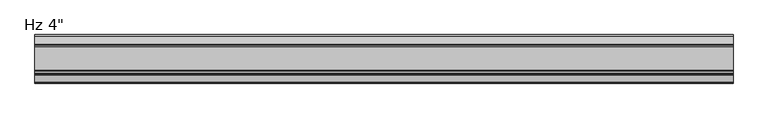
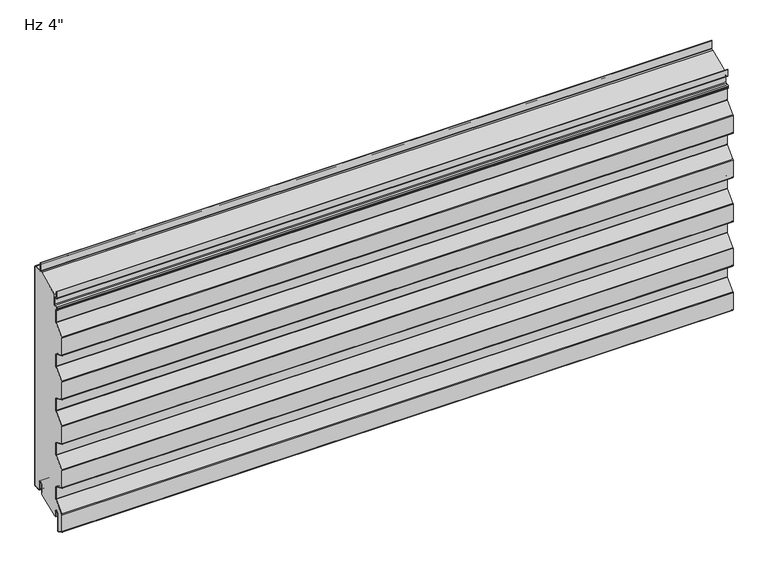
"""IFC4 building model written with IfcOpenShell, lengths in millimetres: plate geometry."""

from ifc_helpers import new_model, si_unit, point, frame, frame_2d, origin, place, context, project, spatial, polyline, circle_curve, trimmed, segment, composite_curve, outline, extrude, source, transform, mapped, element, save


def plate_668f9a29(model_context):
    return source(origin(), model_context, "Body", "SweptSolid", [
        extrude(outline(composite_curve([segment(polyline([(-26.4011912, 19.05), (-26.4011912, -3.1976612), (-74.633822, -23.01875), (-76.7886912, -23.01875), (-76.7886912, -11.90625)]), True, "CONTINUOUS"), segment(trimmed(circle_curve(frame_2d((-81.7574412, -11.90625)), 4.96875), [point((-76.7886912, -11.90625))], [point((-86.7261912, -11.90625))], True, "CARTESIAN"), True, "CONTINUOUS"), segment(polyline([(-86.7261912, -11.90625), (-86.7261912, -48.8194049)]), True, "CONTINUOUS"), segment(trimmed(circle_curve(frame_2d((-88.1074412, -48.8194049)), 1.38125), [point((-86.7261912, -48.8194049))], [point((-88.6666208, -50.0824052))], False, "CARTESIAN"), True, "CONTINUOUS"), segment(polyline([(-88.6666208, -50.0824052), (-99.7779296, -45.1629946)]), True, "CONTINUOUS"), segment(trimmed(circle_curve(frame_2d((-99.21875, -43.8999943)), 1.38125), [point((-99.7779296, -45.1629946))], [point((-100.6, -43.8999943))], False, "CARTESIAN"), True, "CONTINUOUS"), segment(polyline([(-100.6, -43.8999943), (-100.6, -5.0536946)]), True, "CONTINUOUS"), segment(trimmed(circle_curve(frame_2d((-98.5012, -5.0536946)), 2.0988), [point((-100.6, -5.0536946))], [point((-100.0092077, -3.5939431))], False, "CARTESIAN"), True, "CONTINUOUS"), segment(polyline([(-100.0092077, -3.5939431), (-79.8145567, 17.2682996)]), True, "CONTINUOUS"), segment(trimmed(circle_curve(frame_2d((-81.6737, 19.0679503)), 2.5875), [point((-79.8145567, 17.2682996))], [point((-79.0862, 19.0679503))], True, "CARTESIAN"), True, "CONTINUOUS"), segment(polyline([(-79.0862, 19.0679503), (-79.0862, 45.5917981)]), True, "CONTINUOUS"), segment(trimmed(circle_curve(frame_2d((-81.6737, 45.5917981)), 2.5875), [point((-79.0862, 45.5917981))], [point((-80.6261871, 47.9577806))], True, "CARTESIAN"), True, "CONTINUOUS"), segment(polyline([(-80.6261871, 47.9577806), (-99.7779296, 56.4370054)]), True, "CONTINUOUS"), segment(trimmed(circle_curve(frame_2d((-99.21875, 57.7000057)), 1.38125), [point((-99.7779296, 56.4370054))], [point((-100.6, 57.7000057))], False, "CARTESIAN"), True, "CONTINUOUS"), segment(polyline([(-100.6, 57.7000057), (-100.6, 96.8367131)]), True, "CONTINUOUS"), segment(trimmed(circle_curve(frame_2d((-99.21875, 96.8367131)), 1.38125), [point((-100.6, 96.8367131))], [point((-100.2111912, 97.7973962))], False, "CARTESIAN"), True, "CONTINUOUS"), segment(polyline([(-100.2111912, 97.7973962), (-79.8145567, 118.8682996)]), True, "CONTINUOUS"), segment(trimmed(circle_curve(frame_2d((-81.6737, 120.6679503)), 2.5875), [point((-79.8145567, 118.8682996))], [point((-79.0862, 120.6679503))], True, "CARTESIAN"), True, "CONTINUOUS"), segment(polyline([(-79.0862, 120.6679503), (-79.0862, 147.1917981)]), True, "CONTINUOUS"), segment(trimmed(circle_curve(frame_2d((-81.6737, 147.1917981)), 2.5875), [point((-79.0862, 147.1917981))], [point((-80.6261871, 149.5577806))], True, "CARTESIAN"), True, "CONTINUOUS"), segment(polyline([(-80.6261871, 149.5577806), (-99.7779296, 158.0370054)]), True, "CONTINUOUS"), segment(trimmed(circle_curve(frame_2d((-99.21875, 159.3000057)), 1.38125), [point((-99.7779296, 158.0370054))], [point((-100.6, 159.3000057))], False, "CARTESIAN"), True, "CONTINUOUS"), segment(polyline([(-100.6, 159.3000057), (-100.6, 198.4367131)]), True, "CONTINUOUS"), segment(trimmed(circle_curve(frame_2d((-99.21875, 198.4367131)), 1.38125), [point((-100.6, 198.4367131))], [point((-100.2111912, 199.3973962))], False, "CARTESIAN"), True, "CONTINUOUS"), segment(polyline([(-100.2111912, 199.3973962), (-79.8145567, 220.4682996)]), True, "CONTINUOUS"), segment(trimmed(circle_curve(frame_2d((-81.6737, 222.2679503)), 2.5875), [point((-79.8145567, 220.4682996))], [point((-79.0862, 222.2679503))], True, "CARTESIAN"), True, "CONTINUOUS"), segment(polyline([(-79.0862, 222.2679503), (-79.0862, 248.7917981)]), True, "CONTINUOUS"), segment(trimmed(circle_curve(frame_2d((-81.6737, 248.7917981)), 2.5875), [point((-79.0862, 248.7917981))], [point((-80.6261871, 251.1577806))], True, "CARTESIAN"), True, "CONTINUOUS"), segment(polyline([(-80.6261871, 251.1577806), (-99.7779296, 259.6370054)]), True, "CONTINUOUS"), segment(trimmed(circle_curve(frame_2d((-99.21875, 260.9000057)), 1.38125), [point((-99.7779296, 259.6370054))], [point((-100.6, 260.9000057))], False, "CARTESIAN"), True, "CONTINUOUS"), segment(polyline([(-100.6, 260.9000057), (-100.6, 300.0367131)]), True, "CONTINUOUS"), segment(trimmed(circle_curve(frame_2d((-99.21875, 300.0367131)), 1.38125), [point((-100.6, 300.0367131))], [point((-100.2111912, 300.9973962))], False, "CARTESIAN"), True, "CONTINUOUS"), segment(polyline([(-100.2111912, 300.9973962), (-79.8145567, 322.0682996)]), True, "CONTINUOUS"), segment(trimmed(circle_curve(frame_2d((-81.6737, 323.8679503)), 2.5875), [point((-79.8145567, 322.0682996))], [point((-79.0862, 323.8679503))], True, "CARTESIAN"), True, "CONTINUOUS"), segment(polyline([(-79.0862, 323.8679503), (-79.0862, 350.3917981)]), True, "CONTINUOUS"), segment(trimmed(circle_curve(frame_2d((-81.6737, 350.3917981)), 2.5875), [point((-79.0862, 350.3917981))], [point((-80.6261871, 352.7577806))], True, "CARTESIAN"), True, "CONTINUOUS"), segment(polyline([(-80.6261871, 352.7577806), (-99.7779296, 361.2370054)]), True, "CONTINUOUS"), segment(trimmed(circle_curve(frame_2d((-99.21875, 362.5000057)), 1.38125), [point((-99.7779296, 361.2370054))], [point((-100.6, 362.5000057))], False, "CARTESIAN"), True, "CONTINUOUS"), segment(polyline([(-100.6, 362.5000057), (-100.6, 401.6367131)]), True, "CONTINUOUS"), segment(trimmed(circle_curve(frame_2d((-99.21875, 401.6367131)), 1.38125), [point((-100.6, 401.6367131))], [point((-100.2111912, 402.5973962))], False, "CARTESIAN"), True, "CONTINUOUS"), segment(polyline([(-100.2111912, 402.5973962), (-79.8145567, 423.6682996)]), True, "CONTINUOUS"), segment(trimmed(circle_curve(frame_2d((-81.6737, 425.4679503)), 2.5875), [point((-79.8145567, 423.6682996))], [point((-79.0862, 425.4679503))], True, "CARTESIAN"), True, "CONTINUOUS"), segment(polyline([(-79.0862, 425.4679503), (-79.0862, 451.9917981)]), True, "CONTINUOUS"), segment(trimmed(circle_curve(frame_2d((-81.6737, 451.9917981)), 2.5875), [point((-79.0862, 451.9917981))], [point((-80.6261871, 454.3577806))], True, "CARTESIAN"), True, "CONTINUOUS"), segment(polyline([(-80.6261871, 454.3577806), (-82.3166208, 455.1062016)]), True, "CONTINUOUS"), segment(trimmed(circle_curve(frame_2d((-81.7574412, 456.3692019)), 1.38125), [point((-82.3166208, 455.1062016))], [point((-83.1386912, 456.3692019))], False, "CARTESIAN"), True, "CONTINUOUS"), segment(polyline([(-83.1386912, 456.3692019), (-83.1386912, 458.6967085)]), True, "CONTINUOUS"), segment(trimmed(circle_curve(frame_2d((-81.7574412, 458.6967085)), 1.38125), [point((-83.1386912, 458.6967085))], [point((-81.8297302, 460.0760655))], False, "CARTESIAN"), True, "CONTINUOUS"), segment(polyline([(-81.8297302, 460.0760655), (-76.0657719, 460.3781418)]), True, "CONTINUOUS"), segment(trimmed(circle_curve(frame_2d((-76.2011912, 462.9620957)), 2.5875), [point((-76.0657719, 460.3781418))], [point((-73.6136912, 462.9620957))], True, "CARTESIAN"), True, "CONTINUOUS"), segment(polyline([(-73.6136912, 462.9620957), (-73.6136912, 485.3892934), (-24.8719682, 506.20625), (-2.3824412, 506.20625)]), True, "CONTINUOUS"), segment(trimmed(circle_curve(frame_2d((-2.3824412, 504.825)), 1.38125), [point((-2.3824412, 506.20625))], [point((-1.0011912, 504.825))], False, "CARTESIAN"), True, "CONTINUOUS"), segment(polyline([(-1.0011912, 504.825), (-1.0011912, 3.175)]), True, "CONTINUOUS"), segment(trimmed(circle_curve(frame_2d((-2.3824412, 3.175)), 1.38125), [point((-1.0011912, 3.175))], [point((-2.3824412, 1.79375))], False, "CARTESIAN"), True, "CONTINUOUS"), segment(polyline([(-2.3824412, 1.79375), (-15.0824412, 1.79375)]), True, "CONTINUOUS"), segment(trimmed(circle_curve(frame_2d((-15.0824412, 3.175)), 1.38125), [point((-15.0824412, 1.79375))], [point((-16.4636912, 3.175))], False, "CARTESIAN"), True, "CONTINUOUS"), segment(polyline([(-16.4636912, 3.175), (-16.4636912, 19.05)]), True, "CONTINUOUS"), segment(trimmed(circle_curve(frame_2d((-21.4324412, 19.05)), 4.96875), [point((-16.4636912, 19.05))], [point((-26.4011912, 19.05))], True, "CARTESIAN"), True, "CONTINUOUS")], self_intersect=False)), frame((-730.0, 0.0, 0.0), z_axis=(1.0, 0.0, 0.0), x_axis=(0.0, 1.0, 0.0)), (0.0, 0.0, 1.0), 1460.0),
        extrude(outline(composite_curve([segment(polyline([(-25.4, 0.79375), (-26.4, 0.79375), (-26.4, 19.05)]), True, "CONTINUOUS"), segment(trimmed(circle_curve(frame_2d((-21.43125, 19.05)), 4.96875), [point((-26.4, 19.05))], [point((-16.4625, 19.05))], False, "CARTESIAN"), True, "CONTINUOUS"), segment(polyline([(-16.4625, 19.05), (-16.4625, 3.175)]), True, "CONTINUOUS"), segment(trimmed(circle_curve(frame_2d((-15.08125, 3.175)), 1.38125), [point((-16.4625, 3.175))], [point((-15.08125, 1.79375))], True, "CARTESIAN"), True, "CONTINUOUS"), segment(polyline([(-15.08125, 1.79375), (-2.38125, 1.79375)]), True, "CONTINUOUS"), segment(trimmed(circle_curve(frame_2d((-2.38125, 3.175)), 1.38125), [point((-2.38125, 1.79375))], [point((-1.0, 3.175))], True, "CARTESIAN"), True, "CONTINUOUS"), segment(polyline([(-1.0, 3.175), (-1.0, 504.825)]), True, "CONTINUOUS"), segment(trimmed(circle_curve(frame_2d((-2.38125, 504.825)), 1.38125), [point((-1.0, 504.825))], [point((-2.38125, 506.20625))], True, "CARTESIAN"), True, "CONTINUOUS"), segment(polyline([(-2.38125, 506.20625), (-19.446875, 506.20625)]), True, "CONTINUOUS"), segment(trimmed(circle_curve(frame_2d((-19.446875, 508.79375)), 2.5875), [point((-19.446875, 506.20625))], [point((-22.034375, 508.79375))], False, "CARTESIAN"), True, "CONTINUOUS"), segment(polyline([(-22.034375, 508.79375), (-22.034375, 526.25625), (-21.034375, 526.25625), (-21.034375, 508.79375)]), True, "CONTINUOUS"), segment(trimmed(circle_curve(frame_2d((-19.446875, 508.79375)), 1.5875), [point((-21.034375, 508.79375))], [point((-19.446875, 507.20625))], True, "CARTESIAN"), True, "CONTINUOUS"), segment(polyline([(-19.446875, 507.20625), (-2.38125, 507.20625)]), True, "CONTINUOUS"), segment(trimmed(circle_curve(frame_2d((-2.38125, 504.825)), 2.38125), [point((-2.38125, 507.20625))], [point((0.0, 504.825))], False, "CARTESIAN"), True, "CONTINUOUS"), segment(polyline([(0.0, 504.825), (0.0, 3.175)]), True, "CONTINUOUS"), segment(trimmed(circle_curve(frame_2d((-2.38125, 3.175)), 2.38125), [point((0.0, 3.175))], [point((-2.38125, 0.79375))], False, "CARTESIAN"), True, "CONTINUOUS"), segment(polyline([(-2.38125, 0.79375), (-15.08125, 0.79375)]), True, "CONTINUOUS"), segment(trimmed(circle_curve(frame_2d((-15.08125, 3.175)), 2.38125), [point((-15.08125, 0.79375))], [point((-17.4625, 3.175))], False, "CARTESIAN"), True, "CONTINUOUS"), segment(polyline([(-17.4625, 3.175), (-17.4625, 19.05)]), True, "CONTINUOUS"), segment(trimmed(circle_curve(frame_2d((-21.43125, 19.05)), 3.96875), [point((-17.4625, 19.05))], [point((-25.4, 19.05))], True, "CARTESIAN"), True, "CONTINUOUS"), segment(polyline([(-25.4, 19.05), (-25.4, 0.79375)]), True, "CONTINUOUS")], self_intersect=False)), frame((-730.0, 0.0, 0.0), z_axis=(1.0, 0.0, 0.0), x_axis=(0.0, 1.0, 0.0)), (0.0, 0.0, 1.0), 1460.0),
        extrude(outline(composite_curve([segment(polyline([(-85.7261912, -11.90625), (-85.7261912, -48.8194049)]), True, "CONTINUOUS"), segment(trimmed(circle_curve(frame_2d((-88.1074412, -48.8194049)), 2.38125), [point((-85.7261912, -48.8194049))], [point((-89.0714567, -50.9967946))], False, "CARTESIAN"), True, "CONTINUOUS"), segment(polyline([(-89.0714567, -50.9967946), (-100.1827655, -46.0773839)]), True, "CONTINUOUS"), segment(trimmed(circle_curve(frame_2d((-99.21875, -43.8999943)), 2.38125), [point((-100.1827655, -46.0773839))], [point((-101.6, -43.8999943))], False, "CARTESIAN"), True, "CONTINUOUS"), segment(polyline([(-101.6, -43.8999943), (-101.6, -5.0536946)]), True, "CONTINUOUS"), segment(trimmed(circle_curve(frame_2d((-98.5012, -5.0536946)), 3.0988), [point((-101.6, -5.0536946))], [point((-100.7277172, -2.8984259))], False, "CARTESIAN"), True, "CONTINUOUS"), segment(polyline([(-100.7277172, -2.8984259), (-80.5330662, 17.9638168)]), True, "CONTINUOUS"), segment(trimmed(circle_curve(frame_2d((-81.6737, 19.0679503)), 1.5875), [point((-80.5330662, 17.9638168))], [point((-80.0862, 19.0679503))], True, "CARTESIAN"), True, "CONTINUOUS"), segment(polyline([(-80.0862, 19.0679503), (-80.0862, 45.5917981)]), True, "CONTINUOUS"), segment(trimmed(circle_curve(frame_2d((-81.6737, 45.5917981)), 1.5875), [point((-80.0862, 45.5917981))], [point((-81.031023, 47.0433912))], True, "CARTESIAN"), True, "CONTINUOUS"), segment(polyline([(-81.031023, 47.0433912), (-100.1827655, 55.5226161)]), True, "CONTINUOUS"), segment(trimmed(circle_curve(frame_2d((-99.21875, 57.7000057)), 2.38125), [point((-100.1827655, 55.5226161))], [point((-101.6, 57.7000057))], False, "CARTESIAN"), True, "CONTINUOUS"), segment(polyline([(-101.6, 57.7000057), (-101.6, 96.8367131)]), True, "CONTINUOUS"), segment(trimmed(circle_curve(frame_2d((-99.21875, 96.8367131)), 2.38125), [point((-101.6, 96.8367131))], [point((-100.9297007, 98.4929134))], False, "CARTESIAN"), True, "CONTINUOUS"), segment(polyline([(-100.9297007, 98.4929134), (-80.5330662, 119.5638168)]), True, "CONTINUOUS"), segment(trimmed(circle_curve(frame_2d((-81.6737, 120.6679503)), 1.5875), [point((-80.5330662, 119.5638168))], [point((-80.0862, 120.6679503))], True, "CARTESIAN"), True, "CONTINUOUS"), segment(polyline([(-80.0862, 120.6679503), (-80.0862, 147.1917981)]), True, "CONTINUOUS"), segment(trimmed(circle_curve(frame_2d((-81.6737, 147.1917981)), 1.5875), [point((-80.0862, 147.1917981))], [point((-81.031023, 148.6433912))], True, "CARTESIAN"), True, "CONTINUOUS"), segment(polyline([(-81.031023, 148.6433912), (-100.1827655, 157.1226161)]), True, "CONTINUOUS"), segment(trimmed(circle_curve(frame_2d((-99.21875, 159.3000057)), 2.38125), [point((-100.1827655, 157.1226161))], [point((-101.6, 159.3000057))], False, "CARTESIAN"), True, "CONTINUOUS"), segment(polyline([(-101.6, 159.3000057), (-101.6, 198.4367131)]), True, "CONTINUOUS"), segment(trimmed(circle_curve(frame_2d((-99.21875, 198.4367131)), 2.38125), [point((-101.6, 198.4367131))], [point((-100.9297007, 200.0929134))], False, "CARTESIAN"), True, "CONTINUOUS"), segment(polyline([(-100.9297007, 200.0929134), (-80.5330662, 221.1638168)]), True, "CONTINUOUS"), segment(trimmed(circle_curve(frame_2d((-81.6737, 222.2679503)), 1.5875), [point((-80.5330662, 221.1638168))], [point((-80.0862, 222.2679503))], True, "CARTESIAN"), True, "CONTINUOUS"), segment(polyline([(-80.0862, 222.2679503), (-80.0862, 248.7917981)]), True, "CONTINUOUS"), segment(trimmed(circle_curve(frame_2d((-81.6737, 248.7917981)), 1.5875), [point((-80.0862, 248.7917981))], [point((-81.031023, 250.2433912))], True, "CARTESIAN"), True, "CONTINUOUS"), segment(polyline([(-81.031023, 250.2433912), (-100.1827655, 258.7226161)]), True, "CONTINUOUS"), segment(trimmed(circle_curve(frame_2d((-99.21875, 260.9000057)), 2.38125), [point((-100.1827655, 258.7226161))], [point((-101.6, 260.9000057))], False, "CARTESIAN"), True, "CONTINUOUS"), segment(polyline([(-101.6, 260.9000057), (-101.6, 300.0367131)]), True, "CONTINUOUS"), segment(trimmed(circle_curve(frame_2d((-99.21875, 300.0367131)), 2.38125), [point((-101.6, 300.0367131))], [point((-100.9297007, 301.6929134))], False, "CARTESIAN"), True, "CONTINUOUS"), segment(polyline([(-100.9297007, 301.6929134), (-80.5330662, 322.7638168)]), True, "CONTINUOUS"), segment(trimmed(circle_curve(frame_2d((-81.6737, 323.8679503)), 1.5875), [point((-80.5330662, 322.7638168))], [point((-80.0862, 323.8679503))], True, "CARTESIAN"), True, "CONTINUOUS"), segment(polyline([(-80.0862, 323.8679503), (-80.0862, 350.3917981)]), True, "CONTINUOUS"), segment(trimmed(circle_curve(frame_2d((-81.6737, 350.3917981)), 1.5875), [point((-80.0862, 350.3917981))], [point((-81.031023, 351.8433912))], True, "CARTESIAN"), True, "CONTINUOUS"), segment(polyline([(-81.031023, 351.8433912), (-100.1827655, 360.3226161)]), True, "CONTINUOUS"), segment(trimmed(circle_curve(frame_2d((-99.21875, 362.5000057)), 2.38125), [point((-100.1827655, 360.3226161))], [point((-101.6, 362.5000057))], False, "CARTESIAN"), True, "CONTINUOUS"), segment(polyline([(-101.6, 362.5000057), (-101.6, 401.6367131)]), True, "CONTINUOUS"), segment(trimmed(circle_curve(frame_2d((-99.21875, 401.6367131)), 2.38125), [point((-101.6, 401.6367131))], [point((-100.9297007, 403.2929134))], False, "CARTESIAN"), True, "CONTINUOUS"), segment(polyline([(-100.9297007, 403.2929134), (-80.5330662, 424.3638168)]), True, "CONTINUOUS"), segment(trimmed(circle_curve(frame_2d((-81.6737, 425.4679503)), 1.5875), [point((-80.5330662, 424.3638168))], [point((-80.0862, 425.4679503))], True, "CARTESIAN"), True, "CONTINUOUS"), segment(polyline([(-80.0862, 425.4679503), (-80.0862, 451.9917981)]), True, "CONTINUOUS"), segment(trimmed(circle_curve(frame_2d((-81.6737, 451.9917981)), 1.5875), [point((-80.0862, 451.9917981))], [point((-81.031023, 453.4433912))], True, "CARTESIAN"), True, "CONTINUOUS"), segment(polyline([(-81.031023, 453.4433912), (-82.7214567, 454.1918123)]), True, "CONTINUOUS"), segment(trimmed(circle_curve(frame_2d((-81.7574412, 456.3692019)), 2.38125), [point((-82.7214567, 454.1918123))], [point((-84.1386912, 456.3692019))], False, "CARTESIAN"), True, "CONTINUOUS"), segment(polyline([(-84.1386912, 456.3692019), (-84.1386912, 458.6967085)]), True, "CONTINUOUS"), segment(trimmed(circle_curve(frame_2d((-81.7574412, 458.6967085)), 2.38125), [point((-84.1386912, 458.6967085))], [point((-81.8820662, 461.0746951))], False, "CARTESIAN"), True, "CONTINUOUS"), segment(polyline([(-81.8820662, 461.0746951), (-76.1181078, 461.3767713)]), True, "CONTINUOUS"), segment(trimmed(circle_curve(frame_2d((-76.2011912, 462.9620957)), 1.5875), [point((-76.1181078, 461.3767713))], [point((-74.6136912, 462.9620957))], True, "CARTESIAN"), True, "CONTINUOUS"), segment(polyline([(-74.6136912, 462.9620957), (-74.6136912, 477.8375)]), True, "CONTINUOUS"), segment(trimmed(circle_curve(frame_2d((-76.2011912, 477.8375)), 1.5875), [point((-74.6136912, 477.8375))], [point((-76.2011912, 479.425))], True, "CARTESIAN"), True, "CONTINUOUS"), segment(polyline([(-76.2011912, 479.425), (-79.7730662, 479.425)]), True, "CONTINUOUS"), segment(trimmed(circle_curve(frame_2d((-79.7730662, 481.80625)), 2.38125), [point((-79.7730662, 479.425))], [point((-82.1543162, 481.80625))], False, "CARTESIAN"), True, "CONTINUOUS"), segment(polyline([(-82.1543162, 481.80625), (-82.1543162, 496.09375), (-81.1543162, 496.09375), (-81.1543162, 481.80625)]), True, "CONTINUOUS"), segment(trimmed(circle_curve(frame_2d((-79.7730662, 481.80625)), 1.38125), [point((-81.1543162, 481.80625))], [point((-79.7730662, 480.425))], True, "CARTESIAN"), True, "CONTINUOUS"), segment(polyline([(-79.7730662, 480.425), (-76.2011912, 480.425)]), True, "CONTINUOUS"), segment(trimmed(circle_curve(frame_2d((-76.2011912, 477.8375)), 2.5875), [point((-76.2011912, 480.425))], [point((-73.6136912, 477.8375))], False, "CARTESIAN"), True, "CONTINUOUS"), segment(polyline([(-73.6136912, 477.8375), (-73.6136912, 462.9620957)]), True, "CONTINUOUS"), segment(trimmed(circle_curve(frame_2d((-76.2011912, 462.9620957)), 2.5875), [point((-73.6136912, 462.9620957))], [point((-76.0657719, 460.3781418))], False, "CARTESIAN"), True, "CONTINUOUS"), segment(polyline([(-76.0657719, 460.3781418), (-81.8297302, 460.0760655)]), True, "CONTINUOUS"), segment(trimmed(circle_curve(frame_2d((-81.7574412, 458.6967085)), 1.38125), [point((-81.8297302, 460.0760655))], [point((-83.1386912, 458.6967085))], True, "CARTESIAN"), True, "CONTINUOUS"), segment(polyline([(-83.1386912, 458.6967085), (-83.1386912, 456.3692019)]), True, "CONTINUOUS"), segment(trimmed(circle_curve(frame_2d((-81.7574412, 456.3692019)), 1.38125), [point((-83.1386912, 456.3692019))], [point((-82.3166208, 455.1062016))], True, "CARTESIAN"), True, "CONTINUOUS"), segment(polyline([(-82.3166208, 455.1062016), (-80.6261871, 454.3577806)]), True, "CONTINUOUS"), segment(trimmed(circle_curve(frame_2d((-81.6737, 451.9917981)), 2.5875), [point((-80.6261871, 454.3577806))], [point((-79.0862, 451.9917981))], False, "CARTESIAN"), True, "CONTINUOUS"), segment(polyline([(-79.0862, 451.9917981), (-79.0862, 425.4679503)]), True, "CONTINUOUS"), segment(trimmed(circle_curve(frame_2d((-81.6737, 425.4679503)), 2.5875), [point((-79.0862, 425.4679503))], [point((-79.8145567, 423.6682996))], False, "CARTESIAN"), True, "CONTINUOUS"), segment(polyline([(-79.8145567, 423.6682996), (-100.2111912, 402.5973962)]), True, "CONTINUOUS"), segment(trimmed(circle_curve(frame_2d((-99.21875, 401.6367131)), 1.38125), [point((-100.2111912, 402.5973962))], [point((-100.6, 401.6367131))], True, "CARTESIAN"), True, "CONTINUOUS"), segment(polyline([(-100.6, 401.6367131), (-100.6, 362.5000057)]), True, "CONTINUOUS"), segment(trimmed(circle_curve(frame_2d((-99.21875, 362.5000057)), 1.38125), [point((-100.6, 362.5000057))], [point((-99.7779296, 361.2370054))], True, "CARTESIAN"), True, "CONTINUOUS"), segment(polyline([(-99.7779296, 361.2370054), (-80.6261871, 352.7577806)]), True, "CONTINUOUS"), segment(trimmed(circle_curve(frame_2d((-81.6737, 350.3917981)), 2.5875), [point((-80.6261871, 352.7577806))], [point((-79.0862, 350.3917981))], False, "CARTESIAN"), True, "CONTINUOUS"), segment(polyline([(-79.0862, 350.3917981), (-79.0862, 323.8679503)]), True, "CONTINUOUS"), segment(trimmed(circle_curve(frame_2d((-81.6737, 323.8679503)), 2.5875), [point((-79.0862, 323.8679503))], [point((-79.8145567, 322.0682996))], False, "CARTESIAN"), True, "CONTINUOUS"), segment(polyline([(-79.8145567, 322.0682996), (-100.2111912, 300.9973962)]), True, "CONTINUOUS"), segment(trimmed(circle_curve(frame_2d((-99.21875, 300.0367131)), 1.38125), [point((-100.2111912, 300.9973962))], [point((-100.6, 300.0367131))], True, "CARTESIAN"), True, "CONTINUOUS"), segment(polyline([(-100.6, 300.0367131), (-100.6, 260.9000057)]), True, "CONTINUOUS"), segment(trimmed(circle_curve(frame_2d((-99.21875, 260.9000057)), 1.38125), [point((-100.6, 260.9000057))], [point((-99.7779296, 259.6370054))], True, "CARTESIAN"), True, "CONTINUOUS"), segment(polyline([(-99.7779296, 259.6370054), (-80.6261871, 251.1577806)]), True, "CONTINUOUS"), segment(trimmed(circle_curve(frame_2d((-81.6737, 248.7917981)), 2.5875), [point((-80.6261871, 251.1577806))], [point((-79.0862, 248.7917981))], False, "CARTESIAN"), True, "CONTINUOUS"), segment(polyline([(-79.0862, 248.7917981), (-79.0862, 222.2679503)]), True, "CONTINUOUS"), segment(trimmed(circle_curve(frame_2d((-81.6737, 222.2679503)), 2.5875), [point((-79.0862, 222.2679503))], [point((-79.8145567, 220.4682996))], False, "CARTESIAN"), True, "CONTINUOUS"), segment(polyline([(-79.8145567, 220.4682996), (-100.2111912, 199.3973962)]), True, "CONTINUOUS"), segment(trimmed(circle_curve(frame_2d((-99.21875, 198.4367131)), 1.38125), [point((-100.2111912, 199.3973962))], [point((-100.6, 198.4367131))], True, "CARTESIAN"), True, "CONTINUOUS"), segment(polyline([(-100.6, 198.4367131), (-100.6, 159.3000057)]), True, "CONTINUOUS"), segment(trimmed(circle_curve(frame_2d((-99.21875, 159.3000057)), 1.38125), [point((-100.6, 159.3000057))], [point((-99.7779296, 158.0370054))], True, "CARTESIAN"), True, "CONTINUOUS"), segment(polyline([(-99.7779296, 158.0370054), (-80.6261871, 149.5577806)]), True, "CONTINUOUS"), segment(trimmed(circle_curve(frame_2d((-81.6737, 147.1917981)), 2.5875), [point((-80.6261871, 149.5577806))], [point((-79.0862, 147.1917981))], False, "CARTESIAN"), True, "CONTINUOUS"), segment(polyline([(-79.0862, 147.1917981), (-79.0862, 120.6679503)]), True, "CONTINUOUS"), segment(trimmed(circle_curve(frame_2d((-81.6737, 120.6679503)), 2.5875), [point((-79.0862, 120.6679503))], [point((-79.8145567, 118.8682996))], False, "CARTESIAN"), True, "CONTINUOUS"), segment(polyline([(-79.8145567, 118.8682996), (-100.2111912, 97.7973962)]), True, "CONTINUOUS"), segment(trimmed(circle_curve(frame_2d((-99.21875, 96.8367131)), 1.38125), [point((-100.2111912, 97.7973962))], [point((-100.6, 96.8367131))], True, "CARTESIAN"), True, "CONTINUOUS"), segment(polyline([(-100.6, 96.8367131), (-100.6, 57.7000057)]), True, "CONTINUOUS"), segment(trimmed(circle_curve(frame_2d((-99.21875, 57.7000057)), 1.38125), [point((-100.6, 57.7000057))], [point((-99.7779296, 56.4370054))], True, "CARTESIAN"), True, "CONTINUOUS"), segment(polyline([(-99.7779296, 56.4370054), (-80.6261871, 47.9577806)]), True, "CONTINUOUS"), segment(trimmed(circle_curve(frame_2d((-81.6737, 45.5917981)), 2.5875), [point((-80.6261871, 47.9577806))], [point((-79.0862, 45.5917981))], False, "CARTESIAN"), True, "CONTINUOUS"), segment(polyline([(-79.0862, 45.5917981), (-79.0862, 19.0679503)]), True, "CONTINUOUS"), segment(trimmed(circle_curve(frame_2d((-81.6737, 19.0679503)), 2.5875), [point((-79.0862, 19.0679503))], [point((-79.8145567, 17.2682996))], False, "CARTESIAN"), True, "CONTINUOUS"), segment(polyline([(-79.8145567, 17.2682996), (-100.0092077, -3.5939431)]), True, "CONTINUOUS"), segment(trimmed(circle_curve(frame_2d((-98.5012, -5.0536946)), 2.0988), [point((-100.0092077, -3.5939431))], [point((-100.6, -5.0536946))], True, "CARTESIAN"), True, "CONTINUOUS"), segment(polyline([(-100.6, -5.0536946), (-100.6, -43.8999943)]), True, "CONTINUOUS"), segment(trimmed(circle_curve(frame_2d((-99.21875, -43.8999943)), 1.38125), [point((-100.6, -43.8999943))], [point((-99.7779296, -45.1629946))], True, "CARTESIAN"), True, "CONTINUOUS"), segment(polyline([(-99.7779296, -45.1629946), (-88.6666208, -50.0824052)]), True, "CONTINUOUS"), segment(trimmed(circle_curve(frame_2d((-88.1074412, -48.8194049)), 1.38125), [point((-88.6666208, -50.0824052))], [point((-86.7261912, -48.8194049))], True, "CARTESIAN"), True, "CONTINUOUS"), segment(polyline([(-86.7261912, -48.8194049), (-86.7261912, -11.90625)]), True, "CONTINUOUS"), segment(trimmed(circle_curve(frame_2d((-81.7574412, -11.90625)), 4.96875), [point((-86.7261912, -11.90625))], [point((-76.7886912, -11.90625))], False, "CARTESIAN"), True, "CONTINUOUS"), segment(polyline([(-76.7886912, -11.90625), (-76.7886912, -23.01875), (-77.7886912, -23.01875), (-77.7886912, -11.90625)]), True, "CONTINUOUS"), segment(trimmed(circle_curve(frame_2d((-81.7574412, -11.90625)), 3.96875), [point((-77.7886912, -11.90625))], [point((-85.7261912, -11.90625))], True, "CARTESIAN"), True, "CONTINUOUS")], self_intersect=False)), frame((-730.0, 0.0, 0.0), z_axis=(1.0, 0.0, 0.0), x_axis=(0.0, 1.0, 0.0)), (0.0, 0.0, 1.0), 1460.0),
    ])


if __name__ == "__main__":
    model = new_model("IFC4")
    model_context = context("Model", 3, world=origin())
    ifc_project = project(units=[si_unit("LENGTHUNIT", "METRE", prefix="MILLI")], contexts=[model_context])
    site = spatial("IfcSite", under=ifc_project)
    building = spatial("IfcBuilding", under=site)
    placement = place(None, origin())
    plate_shape = plate_668f9a29(model_context)
    element("IfcPlate", 1, ObjectType="KIP-20-DWR-R19-CP-Hz-S : Hz 4\"", at=placement, inside=building, context=model_context, shape_type="MappedRepresentation", body=[
        mapped(plate_shape, transform((0.0, 0.0, 0.0), x_axis=(1.0, 0.0, 0.0), y_axis=(0.0, 1.0, 0.0), z_axis=(0.0, 0.0, 1.0))),
    ])
    save(model, "model.ifc")
